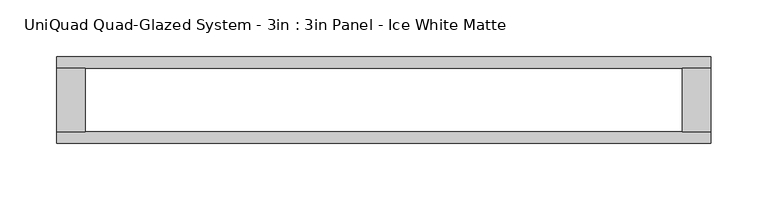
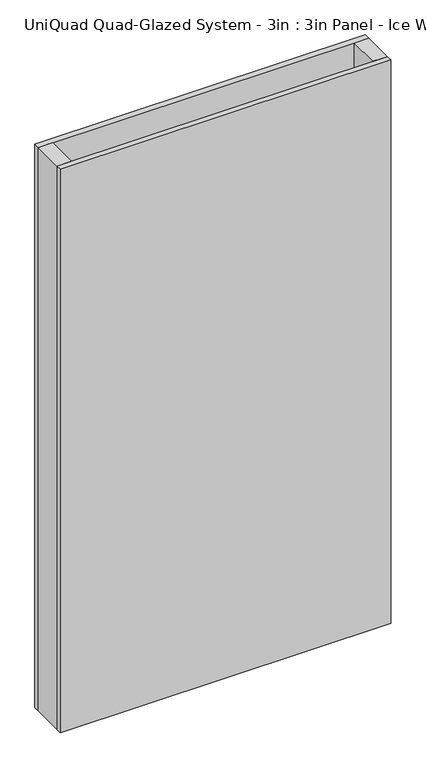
"""IFC4 building model written with IfcOpenShell, lengths in millimetres: plate geometry, UniQuad Quad-Glazed System - 3in : 3in Panel - Ice White Matte."""

from ifc_helpers import new_model, si_unit, origin, origin_with_axes, place, context, project, spatial, polyline, outline, extrude, source, transform, mapped, element, save


def uniquad_quad_glazed_system_3in_3in_panel_ice_white_matte_8fae7f0b(model_context):
    return source(origin(), model_context, "Body", "SweptSolid", [
        extrude(outline(polyline([(288.7713338, 28.0924), (288.7713338, -28.0924), (263.3713338, -28.0924), (263.3713338, 28.0924), (288.7713338, 28.0924)])), origin_with_axes(), (0.0, 0.0, 1.0), 1041.4),
        extrude(outline(polyline([(-288.7713338, 28.0924), (-263.3713338, 28.0924), (-263.3713338, -28.0924), (-288.7713338, -28.0924), (-288.7713338, 28.0924)])), origin_with_axes(), (0.0, 0.0, 1.0), 1041.4),
        extrude(outline(polyline([(288.7713338, -28.0924), (288.7713338, -38.1), (-288.7713338, -38.1), (-288.7713338, -28.0924), (288.7713338, -28.0924)])), origin_with_axes(), (0.0, 0.0, 1.0), 1041.4),
        extrude(outline(polyline([(288.7713338, 38.1), (288.7713338, 28.0924), (-288.7713338, 28.0924), (-288.7713338, 38.1), (288.7713338, 38.1)])), origin_with_axes(), (0.0, 0.0, 1.0), 1041.4),
    ])


if __name__ == "__main__":
    model = new_model("IFC4")
    model_context = context("Model", 3, world=origin())
    ifc_project = project(units=[si_unit("LENGTHUNIT", "METRE", prefix="MILLI")], contexts=[model_context])
    site = spatial("IfcSite", under=ifc_project)
    building = spatial("IfcBuilding", under=site)
    placement = place(None, origin())
    uniquad_quad_glazed_system_3in_3in_panel_ice_white_matte_shape = uniquad_quad_glazed_system_3in_3in_panel_ice_white_matte_8fae7f0b(model_context)
    element("IfcPlate", 1, ObjectType="UniQuad Quad-Glazed System - 3in : 3in Panel - Ice White Matte", at=placement, inside=building, context=model_context, shape_type="MappedRepresentation", body=[
        mapped(uniquad_quad_glazed_system_3in_3in_panel_ice_white_matte_shape, transform((0.0, 0.0, 0.0), x_axis=(1.0, 0.0, 0.0), y_axis=(0.0, 1.0, 0.0), z_axis=(0.0, 0.0, 1.0))),
    ])
    save(model, "model.ifc")
